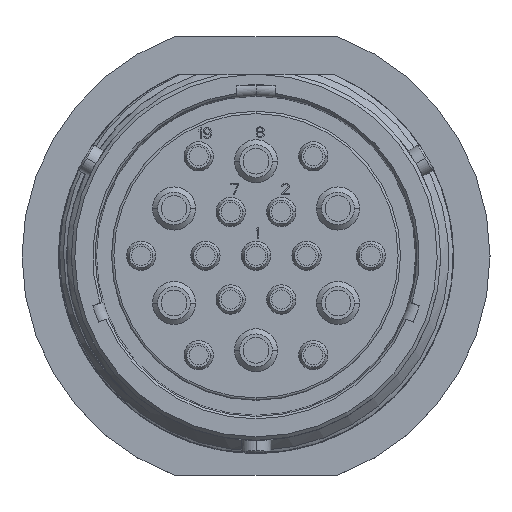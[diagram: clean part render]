
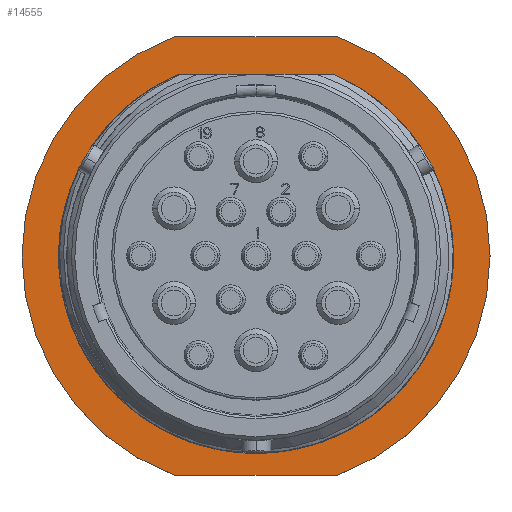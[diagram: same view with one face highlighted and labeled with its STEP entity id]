
A CAD part, top view. The second image highlights one B-rep face of the part: STEP entity #14555.
In plain terms, the highlighted planar face has unit normal (0, 0, 1).
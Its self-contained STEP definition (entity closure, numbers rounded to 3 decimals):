
#2340=CARTESIAN_POINT('',(0.,0.,-26.162));
#2341=DIRECTION('',(0.,0.,-1.));
#2342=DIRECTION('',(0.397,0.918,0.));
#2343=AXIS2_PLACEMENT_3D('',#2340,#2341,#2342);
#2349=DIRECTION('',(-1.,0.,0.));
#2350=VECTOR('',#2349,17.678);
#2351=CARTESIAN_POINT('',(8.839,-23.813,-26.162));
#2352=LINE('',#2351,#2350);
#2353=CARTESIAN_POINT('',(0.,0.,-26.162));
#2354=DIRECTION('',(0.,0.,1.));
#2355=DIRECTION('',(-0.348,0.938,0.));
#2356=AXIS2_PLACEMENT_3D('',#2353,#2354,#2355);
#2358=DIRECTION('',(1.,0.,0.));
#2359=VECTOR('',#2358,17.678);
#2360=CARTESIAN_POINT('',(-8.839,23.813,-26.162));
#2361=LINE('',#2360,#2359);
#2362=CARTESIAN_POINT('',(0.,0.,-26.162));
#2363=DIRECTION('',(0.,0.,-1.));
#2364=DIRECTION('',(0.348,0.938,0.));
#2365=AXIS2_PLACEMENT_3D('',#2362,#2363,#2364);
#2367=DIRECTION('',(1.,0.,0.));
#2368=VECTOR('',#2367,17.035);
#2369=CARTESIAN_POINT('',(-8.518,19.666,-26.162));
#2370=LINE('',#2369,#2368);
#7301=CARTESIAN_POINT('',(-8.839,-23.813,-26.162));
#7302=VERTEX_POINT('',#7301);
#7303=CARTESIAN_POINT('',(-8.839,23.813,-26.162));
#7304=VERTEX_POINT('',#7303);
#7305=CARTESIAN_POINT('',(8.839,-23.813,-26.162));
#7306=VERTEX_POINT('',#7305);
#7307=CARTESIAN_POINT('',(8.839,23.813,-26.162));
#7308=VERTEX_POINT('',#7307);
#8064=CARTESIAN_POINT('',(-8.518,19.666,-26.162));
#8066=VERTEX_POINT('',#8064);
#8110=CARTESIAN_POINT('',(8.518,19.666,-26.162));
#8111=VERTEX_POINT('',#8110);
#14536=CARTESIAN_POINT('',(0.,0.,-26.162));
#14537=DIRECTION('',(0.,0.,1.));
#14538=DIRECTION('',(0.,1.,0.));
#14539=AXIS2_PLACEMENT_3D('',#14536,#14537,#14538);
#14540=PLANE('',#14539);
#14542=ORIENTED_EDGE('',*,*,#14541,.T.);
#14544=ORIENTED_EDGE('',*,*,#14543,.F.);
#14546=ORIENTED_EDGE('',*,*,#14545,.T.);
#14548=ORIENTED_EDGE('',*,*,#14547,.T.);
#14549=EDGE_LOOP('',(#14542,#14544,#14546,#14548));
#14550=FACE_OUTER_BOUND('',#14549,.F.);
#14551=ORIENTED_EDGE('',*,*,#14530,.F.);
#14552=ORIENTED_EDGE('',*,*,#9412,.F.);
#14553=EDGE_LOOP('',(#14551,#14552));
#14554=FACE_BOUND('',#14553,.F.);
#14555=ADVANCED_FACE('',(#14550,#14554),#14540,.T.);
#2344=CIRCLE('',#2343,21.431);
#2357=CIRCLE('',#2356,25.4);
#2366=CIRCLE('',#2365,25.4);
#9412=EDGE_CURVE('',#8066,#8111,#2370,.T.);
#14530=EDGE_CURVE('',#8111,#8066,#2344,.T.);
#14541=EDGE_CURVE('',#7306,#7302,#2352,.T.);
#14543=EDGE_CURVE('',#7304,#7302,#2357,.T.);
#14545=EDGE_CURVE('',#7304,#7308,#2361,.T.);
#14547=EDGE_CURVE('',#7308,#7306,#2366,.T.);
